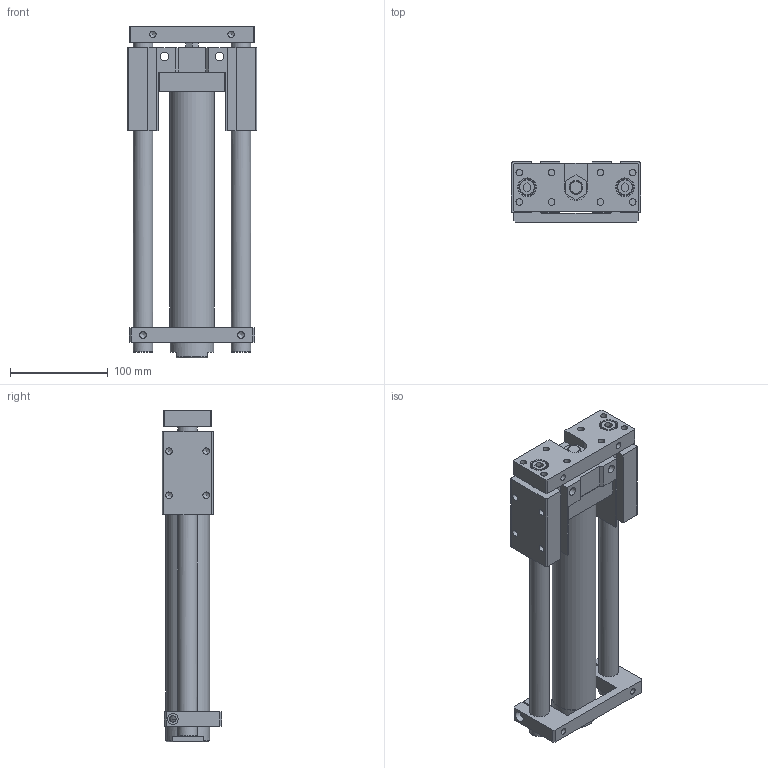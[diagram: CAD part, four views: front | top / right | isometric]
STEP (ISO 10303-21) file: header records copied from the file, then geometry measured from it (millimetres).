
FILE_DESCRIPTION((''),'2;1');
FILE_NAME('I:\3D電子目錄\氣缸\TMB(U)\TMB(U)\TMB(U)40\TMB(U)40x200.stp','2007-10-05T11:44:46',('Administrator'),(''),'Autodesk Inventor 11','Autodesk Inventor 11','');
FILE_SCHEMA(('AUTOMOTIVE_DESIGN { 1 0 10303 214 1 1 1 1 }'));
Length unit declared in the file: millimetre
Products named in the file (1): TMB(U)40
Bounding box: 132 x 61 x 339 mm (x, y, z)
Volume: 1096890.7 mm3; surface area: 164811.8 mm2
Topology: 1 solids, 1 shells, 201 faces, 524 edges, 344 vertices
Faces by surface type: plane 118, bspline 41, cylinder 23, cone 17, torus 2
Full cylindrical faces by diameter (mm): 6.5 x2, 6.647 x6, 11 x1, 14 x1, 16 x2, 18 x2, 20 x2, 45 x2
Entity records: 6100 total; most frequent: CARTESIAN_POINT 1571, DIRECTION 870, ORIENTED_EDGE 858, EDGE_CURVE 429, EDGE_LOOP 324, VERTEX_POINT 319, VECTOR 302, LINE 302
